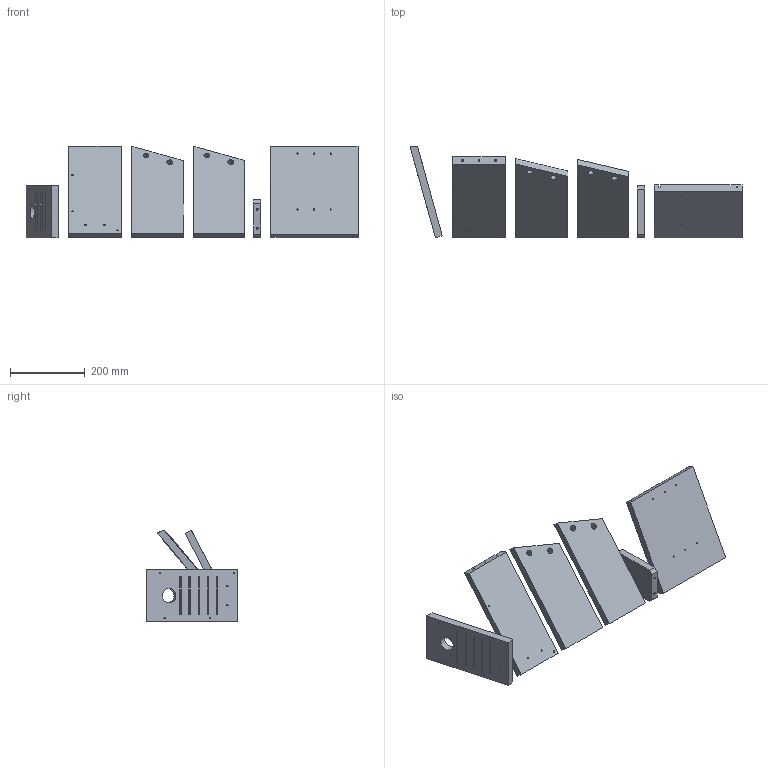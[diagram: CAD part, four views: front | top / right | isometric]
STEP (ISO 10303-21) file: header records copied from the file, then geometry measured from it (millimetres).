
FILE_DESCRIPTION(('Open CASCADE Model'),'2;1');
FILE_NAME('Open CASCADE Shape Model','2026-07-26T22:17:20',('Author'),( 'Open CASCADE'),'Open CASCADE STEP processor 7.9','Open CASCADE 7.9' ,'Unknown');
FILE_SCHEMA(('AUTOMOTIVE_DESIGN { 1 0 10303 214 1 1 1 1 }'));
Length unit declared in the file: millimetre
Products named in the file (7): Open CASCADE STEP translator 7.9 1; Open CASCADE STEP translator 7.9 1.1; Open CASCADE STEP translator 7.9 1.2; Open CASCADE STEP translator 7.9 1.3; Open CASCADE STEP translator 7.9 1.4; Open CASCADE STEP translator 7.9 1.5; Open CASCADE STEP translator 7.9 1.6
Assembly tree (6 placements, depth 2):
  Open CASCADE STEP translator 7.9 1
    Open CASCADE STEP translator 7.9 1.1
    Open CASCADE STEP translator 7.9 1.2
    Open CASCADE STEP translator 7.9 1.3
    Open CASCADE STEP translator 7.9 1.4
    Open CASCADE STEP translator 7.9 1.5
    Open CASCADE STEP translator 7.9 1.6
Bounding box: 888.12 x 244.76 x 245 mm (x, y, z)
Volume: 4354016.1 mm3; surface area: 575637.5 mm2
Topology: 6 solids, 6 shells, 178 faces, 402 edges, 258 vertices
Faces by surface type: plane 118, cylinder 39, cone 17, bspline 4
Full cylindrical faces by diameter (mm): 3.4 x17, 4.2 x17, 15.875 x4, 38.1 x1
Entity records: 10731 total; most frequent: CARTESIAN_POINT 2182, DIRECTION 1619, LINE 941, VECTOR 941, ORIENTED_EDGE 804, PCURVE 804, DEFINITIONAL_REPRESENTATION 804, EDGE_CURVE 402
